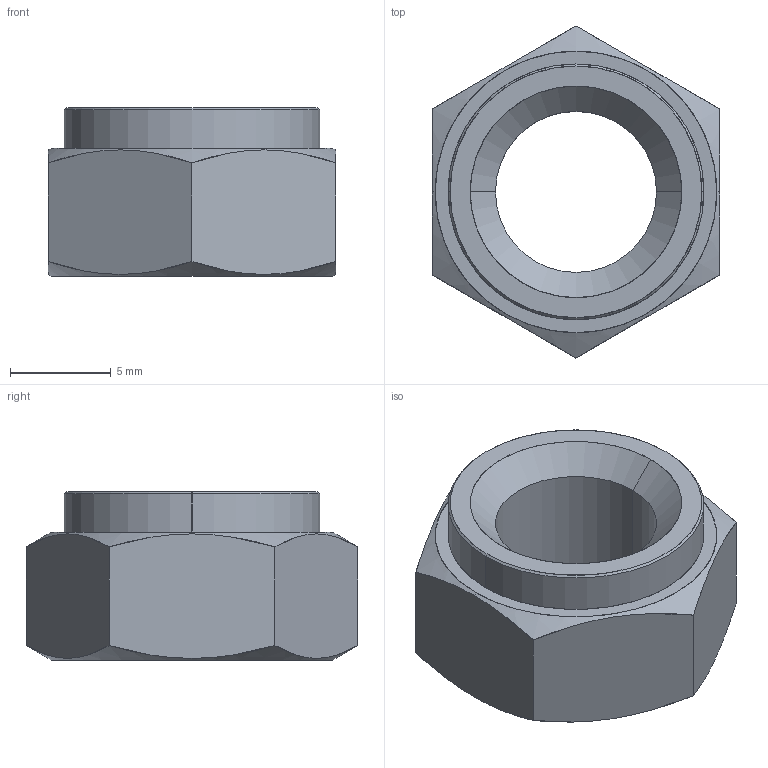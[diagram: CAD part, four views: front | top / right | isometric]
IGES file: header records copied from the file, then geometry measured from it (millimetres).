
Start section: SolidWorks IGES file using analytic representation for surfaces
Global section: file name: C:\Users\liam_\OneDrive\Desktop\Work\Mat Davis Pending 20181125\automotion\P SERIES\P0827.ZP_v2\P0827.ZP_v2_20181231_IGES\P0827.080-16G-ZP.igs; native system: SolidWorks 2017; preprocessor: SolidWorks 2017; author: liam_; date: 181231.110906; units: millimetre
Bounding box: 14.27 x 16.48 x 8.35 mm (x, y, z)
Surface area: 797.8 mm2 (no closed solid volume)
Topology: 0 solids, 0 shells, 23 faces, 424 edges, 424 vertices
Faces by surface type: revolution 14, bspline 9
